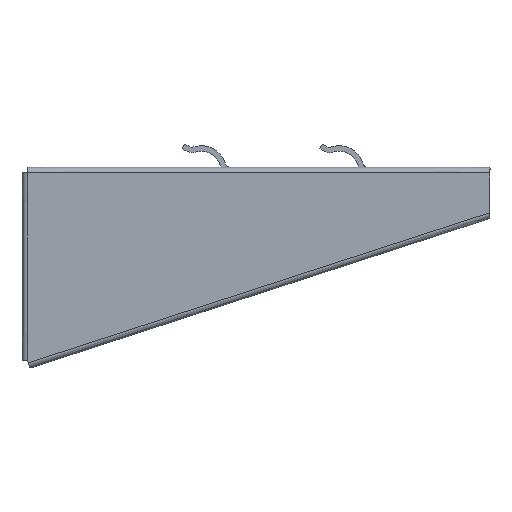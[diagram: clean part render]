
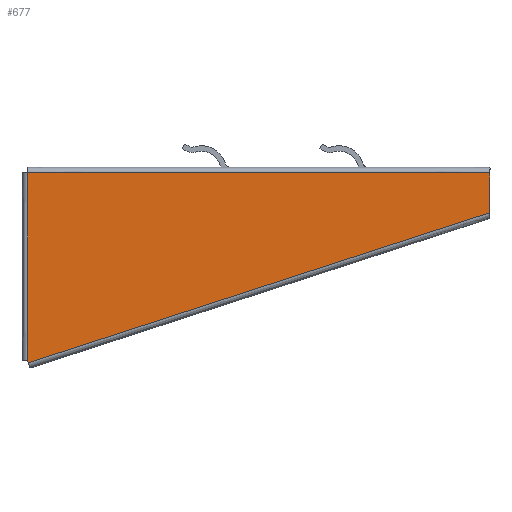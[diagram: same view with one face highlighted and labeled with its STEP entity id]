
A CAD part, left-side view. The second image highlights one B-rep face of the part: STEP entity #677.
In plain terms, the highlighted planar face has unit normal (-1, 0, 0).
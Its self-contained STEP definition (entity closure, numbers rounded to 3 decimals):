
#46=(
BOUNDED_CURVE()
B_SPLINE_CURVE(3,(#2704,#2705,#2706,#2707),.UNSPECIFIED.,.F.,.F.)
B_SPLINE_CURVE_WITH_KNOTS((4,4),(252.465,266.93),.UNSPECIFIED.)
CURVE()
GEOMETRIC_REPRESENTATION_ITEM()
RATIONAL_B_SPLINE_CURVE((1.,1.,1.,1.))
REPRESENTATION_ITEM($)
);
#47=(
BOUNDED_CURVE()
B_SPLINE_CURVE(3,(#2708,#2709,#2710,#2711),.UNSPECIFIED.,.F.,.F.)
B_SPLINE_CURVE_WITH_KNOTS((4,4),(3.,4.),.UNSPECIFIED.)
CURVE()
GEOMETRIC_REPRESENTATION_ITEM()
RATIONAL_B_SPLINE_CURVE((1.,1.,1.,1.))
REPRESENTATION_ITEM($)
);
#677=ADVANCED_FACE($,(#731),#1589,.T.);
#731=FACE_OUTER_BOUND($,#785,.T.);
#785=EDGE_LOOP($,(#929,#930,#931,#932,#933));
#929=ORIENTED_EDGE($,*,*,#1180,.F.);
#930=ORIENTED_EDGE($,*,*,#1181,.F.);
#931=ORIENTED_EDGE($,*,*,#1179,.T.);
#932=ORIENTED_EDGE($,*,*,#1183,.F.);
#933=ORIENTED_EDGE($,*,*,#1182,.F.);
#1179=EDGE_CURVE($,#1429,#1430,#46,.T.);
#1180=EDGE_CURVE($,#1432,#1433,#47,.T.);
#1181=EDGE_CURVE($,#1429,#1432,#1706,.T.);
#1182=EDGE_CURVE($,#1433,#1431,#1707,.T.);
#1183=EDGE_CURVE($,#1431,#1430,#1708,.T.);
#1429=VERTEX_POINT($,#2719);
#1430=VERTEX_POINT($,#2720);
#1431=VERTEX_POINT($,#2721);
#1432=VERTEX_POINT($,#2722);
#1433=VERTEX_POINT($,#2723);
#1589=PLANE($,#1824);
#1706=B_SPLINE_CURVE_WITH_KNOTS($,1,(#2712,#2713),.UNSPECIFIED.,.F.,.F.,
(2,2),(250.465,426.786),.UNSPECIFIED.);
#1707=B_SPLINE_CURVE_WITH_KNOTS($,1,(#2714,#2715),.UNSPECIFIED.,.F.,.F.,
(2,2),(0.,68.),.UNSPECIFIED.);
#1708=B_SPLINE_CURVE_WITH_KNOTS($,1,(#2716,#2717),.UNSPECIFIED.,.F.,.F.,
(2,2),(68.,236.),.UNSPECIFIED.);
#1824=AXIS2_PLACEMENT_3D($,#2718,#1870,$);
#1870=DIRECTION($,(-1.,0.,0.));
#2704=CARTESIAN_POINT($,(-15.,-168.,-16.465));
#2705=CARTESIAN_POINT($,(-15.,-168.,-11.643));
#2706=CARTESIAN_POINT($,(-15.,-168.,-6.822));
#2707=CARTESIAN_POINT($,(-15.,-168.,-2.));
#2708=CARTESIAN_POINT($,(-15.,-0.309,-70.951));
#2709=CARTESIAN_POINT($,(-15.,-0.206,-70.634));
#2710=CARTESIAN_POINT($,(-15.,-0.103,-70.317));
#2711=CARTESIAN_POINT($,(-15.,0.,-70.));
#2712=CARTESIAN_POINT($,(-15.,-168.,-16.465));
#2713=CARTESIAN_POINT($,(-15.,-0.309,-70.951));
#2714=CARTESIAN_POINT($,(-15.,0.,-70.));
#2715=CARTESIAN_POINT($,(-15.,0.,-2.));
#2716=CARTESIAN_POINT($,(-15.,0.,-2.));
#2717=CARTESIAN_POINT($,(-15.,-168.,-2.));
#2718=CARTESIAN_POINT($,(-15.,-168.,-70.951));
#2719=CARTESIAN_POINT($,(-15.,-168.,-16.465));
#2720=CARTESIAN_POINT($,(-15.,-168.,-2.));
#2721=CARTESIAN_POINT($,(-15.,0.,-2.));
#2722=CARTESIAN_POINT($,(-15.,-0.309,-70.951));
#2723=CARTESIAN_POINT($,(-15.,0.,-70.));
